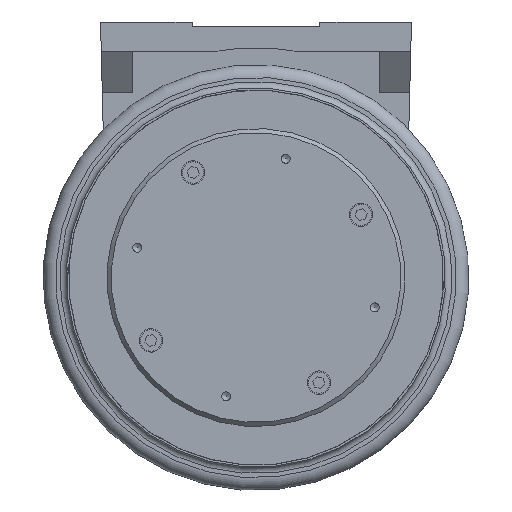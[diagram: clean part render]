
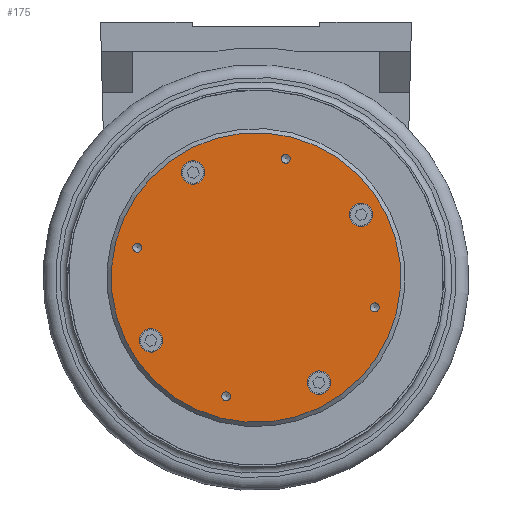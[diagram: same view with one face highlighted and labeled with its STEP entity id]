
A CAD part, front view. The second image highlights one B-rep face of the part: STEP entity #175.
In plain terms, the highlighted planar face has unit normal (0, -1, 0).
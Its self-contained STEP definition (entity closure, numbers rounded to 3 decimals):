
#175=ADVANCED_FACE('',(#1127,#1128,#1129,#1130,#1131,#1132,#1133,#1134,#1135),#1136,.T.);
#1127=FACE_OUTER_BOUND('',#3276,.T.);
#1128=FACE_BOUND('',#3277,.T.);
#1129=FACE_BOUND('',#3278,.T.);
#1130=FACE_BOUND('',#3279,.T.);
#1131=FACE_BOUND('',#3280,.T.);
#1132=FACE_BOUND('',#3281,.T.);
#1133=FACE_BOUND('',#3282,.T.);
#1134=FACE_BOUND('',#3283,.T.);
#1135=FACE_BOUND('',#3284,.T.);
#1136=PLANE('',#3285);
#3276=EDGE_LOOP('',(#6005));
#3277=EDGE_LOOP('',(#6006));
#3278=EDGE_LOOP('',(#6007));
#3279=EDGE_LOOP('',(#6008));
#3280=EDGE_LOOP('',(#6009));
#3281=EDGE_LOOP('',(#6010));
#3282=EDGE_LOOP('',(#6011));
#3283=EDGE_LOOP('',(#6012));
#3284=EDGE_LOOP('',(#6013));
#3285=AXIS2_PLACEMENT_3D('',#6014,#6015,#6016);
#6005=ORIENTED_EDGE('',*,*,#13030,.T.);
#6006=ORIENTED_EDGE('',*,*,#12980,.T.);
#6007=ORIENTED_EDGE('',*,*,#13035,.T.);
#6008=ORIENTED_EDGE('',*,*,#13036,.T.);
#6009=ORIENTED_EDGE('',*,*,#13037,.T.);
#6010=ORIENTED_EDGE('',*,*,#13007,.T.);
#6011=ORIENTED_EDGE('',*,*,#13038,.T.);
#6012=ORIENTED_EDGE('',*,*,#12969,.T.);
#6013=ORIENTED_EDGE('',*,*,#13039,.T.);
#6014=CARTESIAN_POINT('',(0.,-124.5,0.));
#6015=DIRECTION('',(0.,-1.0,0.));
#6016=DIRECTION('',(-1.0,0.,0.0));
#12969=EDGE_CURVE('',#15786,#15786,#15787,.T.);
#12980=EDGE_CURVE('',#15808,#15808,#15809,.T.);
#13007=EDGE_CURVE('',#15860,#15860,#15861,.T.);
#13030=EDGE_CURVE('',#15906,#15906,#15907,.T.);
#13035=EDGE_CURVE('',#15916,#15916,#15917,.T.);
#13036=EDGE_CURVE('',#15918,#15918,#15919,.T.);
#13037=EDGE_CURVE('',#15920,#15920,#15921,.T.);
#13038=EDGE_CURVE('',#15922,#15922,#15923,.T.);
#13039=EDGE_CURVE('',#15924,#15924,#15925,.T.);
#15786=VERTEX_POINT('',#19441);
#15787=CIRCLE('',#19442,5.5);
#15808=VERTEX_POINT('',#19471);
#15809=CIRCLE('',#19472,2.1);
#15860=VERTEX_POINT('',#19537);
#15861=CIRCLE('',#19538,5.5);
#15906=VERTEX_POINT('',#19599);
#15907=CIRCLE('',#19600,68.);
#15916=VERTEX_POINT('',#19613);
#15917=CIRCLE('',#19614,2.1);
#15918=VERTEX_POINT('',#19615);
#15919=CIRCLE('',#19616,2.1);
#15920=VERTEX_POINT('',#19617);
#15921=CIRCLE('',#19618,2.1);
#15922=VERTEX_POINT('',#19619);
#15923=CIRCLE('',#19620,5.5);
#15924=VERTEX_POINT('',#19621);
#15925=CIRCLE('',#19622,5.5);
#19441=CARTESIAN_POINT('',(-28.181,-124.5,54.677));
#19442=AXIS2_PLACEMENT_3D('',#25433,#25434,#25435);
#19471=CARTESIAN_POINT('',(-57.802,-124.5,14.528));
#19472=AXIS2_PLACEMENT_3D('',#25450,#25451,#25452);
#19537=CARTESIAN_POINT('',(28.181,-124.5,-54.677));
#19538=AXIS2_PLACEMENT_3D('',#25500,#25501,#25502);
#19599=CARTESIAN_POINT('',(-16.575,-124.5,-65.949));
#19600=AXIS2_PLACEMENT_3D('',#25537,#25538,#25539);
#19613=CARTESIAN_POINT('',(14.528,-124.5,57.802));
#19614=AXIS2_PLACEMENT_3D('',#25544,#25545,#25546);
#19615=CARTESIAN_POINT('',(57.802,-124.5,-14.528));
#19616=AXIS2_PLACEMENT_3D('',#25547,#25548,#25549);
#19617=CARTESIAN_POINT('',(-14.528,-124.5,-57.802));
#19618=AXIS2_PLACEMENT_3D('',#25550,#25551,#25552);
#19619=CARTESIAN_POINT('',(54.677,-124.5,28.181));
#19620=AXIS2_PLACEMENT_3D('',#25553,#25554,#25555);
#19621=CARTESIAN_POINT('',(-54.677,-124.5,-28.181));
#19622=AXIS2_PLACEMENT_3D('',#25556,#25557,#25558);
#25433=CARTESIAN_POINT('',(-29.522,-124.5,49.343));
#25434=DIRECTION('',(0.,1.0,0.));
#25435=DIRECTION('',(0.244,0.,0.97));
#25450=CARTESIAN_POINT('',(-55.766,-124.5,14.016));
#25451=DIRECTION('',(0.,1.0,0.));
#25452=DIRECTION('',(-0.97,0.,0.244));
#25500=CARTESIAN_POINT('',(29.522,-124.5,-49.343));
#25501=DIRECTION('',(0.,1.0,0.));
#25502=DIRECTION('',(-0.244,0.,-0.97));
#25537=CARTESIAN_POINT('',(0.,-124.5,0.));
#25538=DIRECTION('',(0.,-1.0,0.));
#25539=DIRECTION('',(-0.244,0.,-0.97));
#25544=CARTESIAN_POINT('',(14.016,-124.5,55.766));
#25545=DIRECTION('',(0.,1.0,0.));
#25546=DIRECTION('',(0.244,0.,0.97));
#25547=CARTESIAN_POINT('',(55.766,-124.5,-14.016));
#25548=DIRECTION('',(0.,1.0,0.));
#25549=DIRECTION('',(0.97,0.,-0.244));
#25550=CARTESIAN_POINT('',(-14.016,-124.5,-55.766));
#25551=DIRECTION('',(0.,1.0,0.));
#25552=DIRECTION('',(-0.244,0.,-0.97));
#25553=CARTESIAN_POINT('',(49.343,-124.5,29.522));
#25554=DIRECTION('',(0.,1.0,0.));
#25555=DIRECTION('',(0.97,0.,-0.244));
#25556=CARTESIAN_POINT('',(-49.343,-124.5,-29.522));
#25557=DIRECTION('',(0.,1.0,0.));
#25558=DIRECTION('',(-0.97,0.,0.244));
